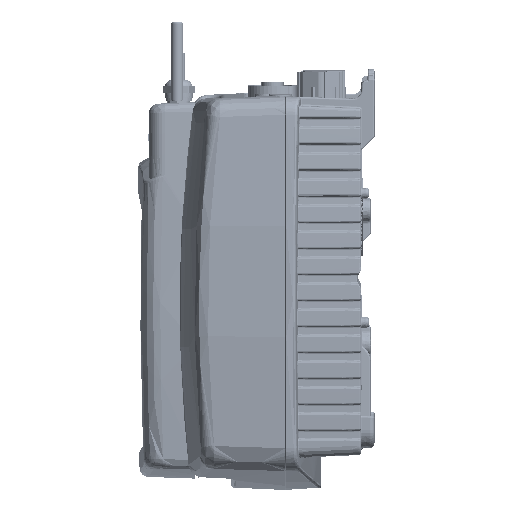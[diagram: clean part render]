
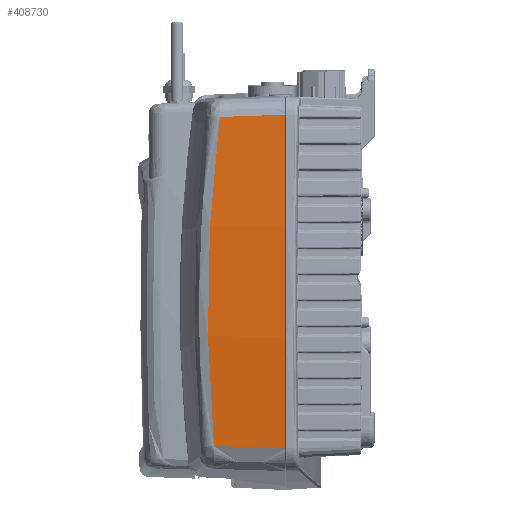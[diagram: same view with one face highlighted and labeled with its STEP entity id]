
A CAD part, left-side view. The second image highlights one B-rep face of the part: STEP entity #408730.
In plain terms, the highlighted conical face has half-angle 2 degrees and reference radius 1208.62 mm.
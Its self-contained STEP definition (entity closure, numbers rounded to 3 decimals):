
#101494 = CONICAL_SURFACE ( 'NONE', #101498, 1208.615, 0.035 ) ;
#101498 = AXIS2_PLACEMENT_3D ( 'NONE', #107954, #107960, #107951 ) ;
#107951 = DIRECTION ( 'NONE',  ( 1., -0.01, 0. ) ) ;
#107954 = CARTESIAN_POINT ( 'NONE',  ( 1084.189, 13.825, -295.741 ) ) ;
#107956 = FACE_OUTER_BOUND ( 'NONE', #391867, .T. ) ;
#107960 = DIRECTION ( 'NONE',  ( 0., 0., -1. ) ) ;
#146905 = CIRCLE ( 'NONE', #146909, 1208.615 ) ;
#146909 = AXIS2_PLACEMENT_3D ( 'NONE', #170152, #170155, #170158 ) ;
#170152 = CARTESIAN_POINT ( 'NONE',  ( 1084.189, 13.825, -295.741 ) ) ;
#170155 = DIRECTION ( 'NONE',  ( 0., 0., 1. ) ) ;
#170158 = DIRECTION ( 'NONE',  ( 1., -0.01, 0. ) ) ;
#201076 = CARTESIAN_POINT ( 'NONE',  ( -118.611, -89.686, -256.538 ) ) ;
#201081 = CARTESIAN_POINT ( 'NONE',  ( -119.61, -90.776, -287.726 ) ) ;
#201117 = CARTESIAN_POINT ( 'NONE',  ( -119.867, -91.056, -295.741 ) ) ;
#201133 = CARTESIAN_POINT ( 'NONE',  ( -119.947, -73.326, -254.459 ) ) ;
#201148 = CARTESIAN_POINT ( 'NONE',  ( -119.354, -90.496, -279.711 ) ) ;
#201153 = CARTESIAN_POINT ( 'NONE',  ( -119.097, -90.216, -271.696 ) ) ;
#201158 = CARTESIAN_POINT ( 'NONE',  ( -118.935, -90.039, -266.643 ) ) ;
#201164 = CARTESIAN_POINT ( 'NONE',  ( -118.773, -89.863, -261.591 ) ) ;
#201170 = CARTESIAN_POINT ( 'NONE',  ( -118.611, -89.686, -256.538 ) ) ;
#201191 = CARTESIAN_POINT ( 'NONE',  ( -119.33, 107.074, -253.086 ) ) ;
#201203 = CARTESIAN_POINT ( 'NONE',  ( -119.536, 107.266, -259.411 ) ) ;
#201208 = CARTESIAN_POINT ( 'NONE',  ( -120.963, -56.956, -252.837 ) ) ;
#201213 = CARTESIAN_POINT ( 'NONE',  ( -122.358, -24.198, -250.486 ) ) ;
#201218 = CARTESIAN_POINT ( 'NONE',  ( -122.738, -7.81, -249.756 ) ) ;
#201223 = CARTESIAN_POINT ( 'NONE',  ( -122.86, 24.983, -249.182 ) ) ;
#201229 = CARTESIAN_POINT ( 'NONE',  ( -122.603, 41.389, -249.337 ) ) ;
#201234 = CARTESIAN_POINT ( 'NONE',  ( -121.448, 74.218, -250.538 ) ) ;
#201240 = CARTESIAN_POINT ( 'NONE',  ( -120.55, 90.642, -251.584 ) ) ;
#201244 = CARTESIAN_POINT ( 'NONE',  ( -119.33, 107.074, -253.086 ) ) ;
#201282 = CARTESIAN_POINT ( 'NONE',  ( -119.743, 107.457, -265.737 ) ) ;
#201288 = CARTESIAN_POINT ( 'NONE',  ( -119.95, 107.648, -272.062 ) ) ;
#201293 = CARTESIAN_POINT ( 'NONE',  ( -120.208, 107.887, -279.955 ) ) ;
#201297 = CARTESIAN_POINT ( 'NONE',  ( -120.465, 108.125, -287.848 ) ) ;
#201302 = CARTESIAN_POINT ( 'NONE',  ( -120.723, 108.363, -295.741 ) ) ;
#229937 = B_SPLINE_CURVE_WITH_KNOTS ( 'NONE', 3,
 ( #201117, #201081, #201148, #201153, #201158, #201164, #201170 ),
 .UNSPECIFIED., .F., .F.,
 ( 4, 3, 4 ),
 ( 0., 0.024, 0.039 ),
 .UNSPECIFIED. ) ;
#229943 = B_SPLINE_CURVE_WITH_KNOTS ( 'NONE', 3,
 ( #201076, #201133, #201208, #201213, #201218, #201223, #201229, #201234, #201240, #201244 ),
 .UNSPECIFIED., .F., .F.,
 ( 4, 2, 2, 2, 4 ),
 ( 0., 0.049, 0.098, 0.148, 0.197 ),
 .UNSPECIFIED. ) ;
#229947 = B_SPLINE_CURVE_WITH_KNOTS ( 'NONE', 3,
 ( #201191, #201203, #201282, #201288, #201293, #201297, #201302 ),
 .UNSPECIFIED., .F., .F.,
 ( 4, 3, 4 ),
 ( 0.006, 0.025, 0.049 ),
 .UNSPECIFIED. ) ;
#253690 = EDGE_CURVE ( 'NONE', #432617, #432631, #146905, .T. ) ;
#264306 = EDGE_CURVE ( 'NONE', #432631, #434075, #229937, .T. ) ;
#264312 = EDGE_CURVE ( 'NONE', #434075, #431738, #229943, .T. ) ;
#264322 = EDGE_CURVE ( 'NONE', #431738, #432617, #229947, .T. ) ;
#264373 = CARTESIAN_POINT ( 'NONE',  ( -119.33, 107.074, -253.086 ) ) ;
#266630 = CARTESIAN_POINT ( 'NONE',  ( -120.723, 108.363, -295.741 ) ) ;
#266694 = CARTESIAN_POINT ( 'NONE',  ( -119.867, -91.056, -295.741 ) ) ;
#268411 = CARTESIAN_POINT ( 'NONE',  ( -118.611, -89.686, -256.538 ) ) ;
#294828 = ORIENTED_EDGE ( 'NONE', *, *, #264306, .T. ) ;
#294836 = ORIENTED_EDGE ( 'NONE', *, *, #264312, .T. ) ;
#294842 = ORIENTED_EDGE ( 'NONE', *, *, #264322, .T. ) ;
#294848 = ORIENTED_EDGE ( 'NONE', *, *, #253690, .T. ) ;
#391867 = EDGE_LOOP ( 'NONE', ( #294828, #294836, #294842, #294848 ) ) ;
#408730 = ADVANCED_FACE ( 'NONE', ( #107956 ), #101494, .T. ) ;
#431738 = VERTEX_POINT ( 'NONE', #264373 ) ;
#432617 = VERTEX_POINT ( 'NONE', #266630 ) ;
#432631 = VERTEX_POINT ( 'NONE', #266694 ) ;
#434075 = VERTEX_POINT ( 'NONE', #268411 ) ;
